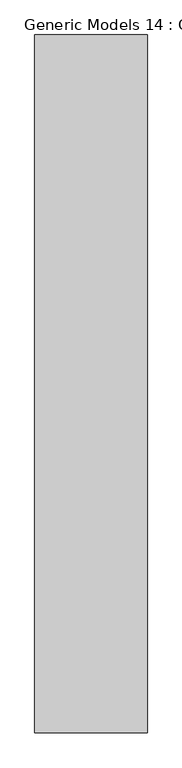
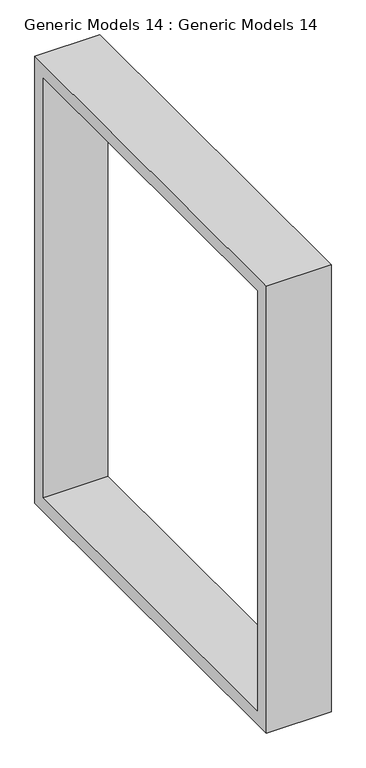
"""IFC4 building model written with IfcOpenShell, lengths in millimetres: proxy geometry, Generic Models 14 : Generic Models 14."""

from ifc_helpers import new_model, si_unit, frame, origin, place, context, project, spatial, polyline, outline, extrude, source, transform, mapped, element, save


def generic_models_14_generic_models_14_45f7f6e0(model_context):
    return source(origin(), model_context, "Body", "SweptSolid", [
        extrude(outline(polyline([(11828.4977909, 2700.0), (11828.4977909, 1050.0), (10428.4977909, 1050.0), (10428.4977909, 2700.0), (11828.4977909, 2700.0)]), holes=[polyline([(11778.4977909, 2650.0), (10482.5626898, 2650.0), (10482.5626898, 1100.0), (11778.4977909, 1100.0), (11778.4977909, 2650.0)])]), frame((12550.0001123, 0.0, 0.0), z_axis=(1.0, 0.0, 0.0), x_axis=(0.0, 1.0, 0.0)), (0.0, 0.0, 1.0), 225.9300488),
    ])


if __name__ == "__main__":
    model = new_model("IFC4")
    model_context = context("Model", 3, world=origin())
    ifc_project = project(units=[si_unit("LENGTHUNIT", "METRE", prefix="MILLI")], contexts=[model_context])
    site = spatial("IfcSite", under=ifc_project)
    building = spatial("IfcBuilding", under=site)
    placement = place(None, origin())
    generic_models_14_generic_models_14_shape = generic_models_14_generic_models_14_45f7f6e0(model_context)
    element("IfcBuildingElementProxy", 1, Name="Generic Models 14 : Generic Models 14", ObjectType="Generic Models 14 : Generic Models 14", at=placement, inside=building, context=model_context, shape_type="MappedRepresentation", body=[
        mapped(generic_models_14_generic_models_14_shape, transform((0.0, 0.0, 0.0), x_axis=(1.0, 0.0, 0.0), y_axis=(0.0, 1.0, 0.0), z_axis=(0.0, 0.0, 1.0))),
    ])
    save(model, "model.ifc")
